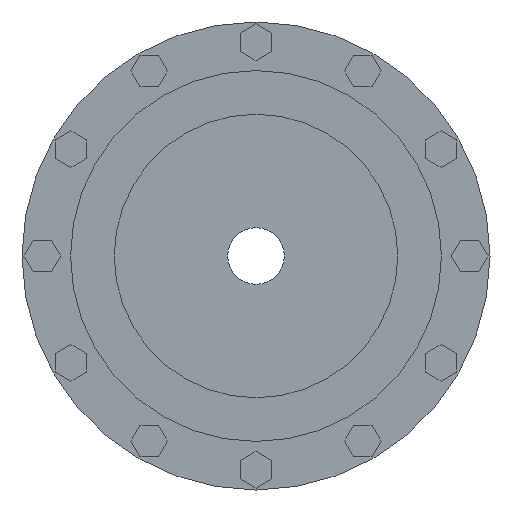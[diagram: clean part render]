
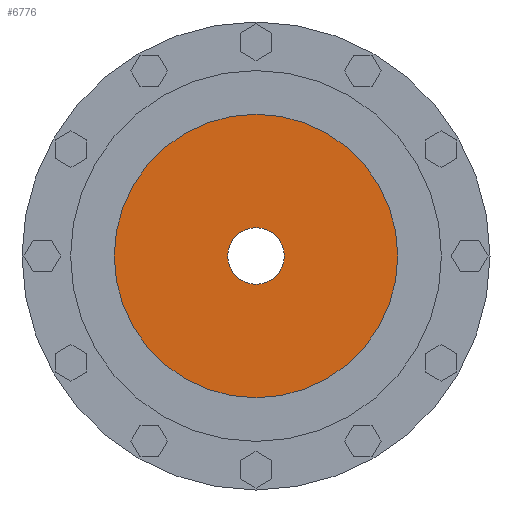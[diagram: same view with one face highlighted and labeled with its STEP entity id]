
A CAD part, left-side view. The second image highlights one B-rep face of the part: STEP entity #6776.
In plain terms, the highlighted planar face has unit normal (-1, 0, 0).
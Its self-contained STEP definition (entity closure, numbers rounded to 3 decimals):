
#6474=CARTESIAN_POINT('',(-129.,0.,0.));
#6475=DIRECTION('',(1.,0.,0.));
#6476=DIRECTION('',(0.,1.,0.));
#6477=AXIS2_PLACEMENT_3D('',#6474,#6475,#6476);
#6553=CARTESIAN_POINT('',(-129.,0.,0.));
#6554=DIRECTION('',(-1.,0.,0.));
#6555=DIRECTION('',(0.,1.,0.));
#6556=AXIS2_PLACEMENT_3D('',#6553,#6554,#6555);
#6558=CARTESIAN_POINT('',(-129.,0.,0.));
#6559=DIRECTION('',(1.,0.,0.));
#6560=DIRECTION('',(0.,1.,0.));
#6561=AXIS2_PLACEMENT_3D('',#6558,#6559,#6560);
#6572=CARTESIAN_POINT('',(-129.,0.,0.));
#6573=DIRECTION('',(-1.,0.,0.));
#6574=DIRECTION('',(0.,1.,0.));
#6575=AXIS2_PLACEMENT_3D('',#6572,#6573,#6574);
#6581=CARTESIAN_POINT('',(-129.,16.,0.));
#6582=CARTESIAN_POINT('',(-129.,-16.,0.));
#6583=VERTEX_POINT('',#6581);
#6584=VERTEX_POINT('',#6582);
#6585=CARTESIAN_POINT('',(-129.,80.25,0.));
#6586=CARTESIAN_POINT('',(-129.,-80.25,0.));
#6587=VERTEX_POINT('',#6585);
#6588=VERTEX_POINT('',#6586);
#6762=CARTESIAN_POINT('',(-129.,0.,0.));
#6763=DIRECTION('',(1.,0.,0.));
#6764=DIRECTION('',(0.,-1.,0.));
#6765=AXIS2_PLACEMENT_3D('',#6762,#6763,#6764);
#6766=PLANE('',#6765);
#6767=ORIENTED_EDGE('',*,*,#6744,.F.);
#6768=ORIENTED_EDGE('',*,*,#6757,.T.);
#6769=EDGE_LOOP('',(#6767,#6768));
#6770=FACE_OUTER_BOUND('',#6769,.F.);
#6771=ORIENTED_EDGE('',*,*,#6622,.F.);
#6773=ORIENTED_EDGE('',*,*,#6772,.T.);
#6774=EDGE_LOOP('',(#6771,#6773));
#6775=FACE_BOUND('',#6774,.F.);
#6776=ADVANCED_FACE('',(#6770,#6775),#6766,.F.);
#6478=CIRCLE('',#6477,16.);
#6557=CIRCLE('',#6556,80.25);
#6562=CIRCLE('',#6561,80.25);
#6576=CIRCLE('',#6575,16.);
#6622=EDGE_CURVE('',#6583,#6584,#6478,.T.);
#6744=EDGE_CURVE('',#6587,#6588,#6557,.T.);
#6757=EDGE_CURVE('',#6587,#6588,#6562,.T.);
#6772=EDGE_CURVE('',#6583,#6584,#6576,.T.);
